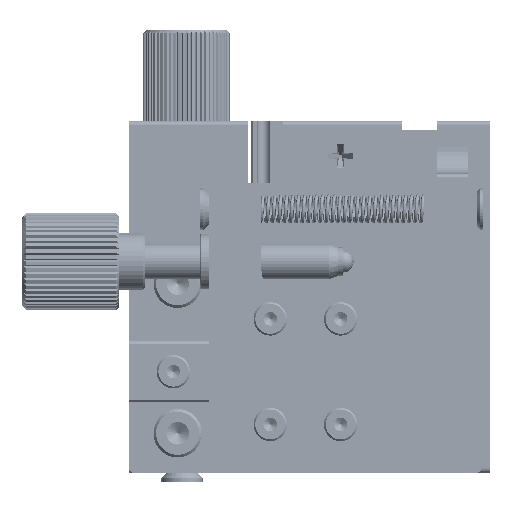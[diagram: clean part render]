
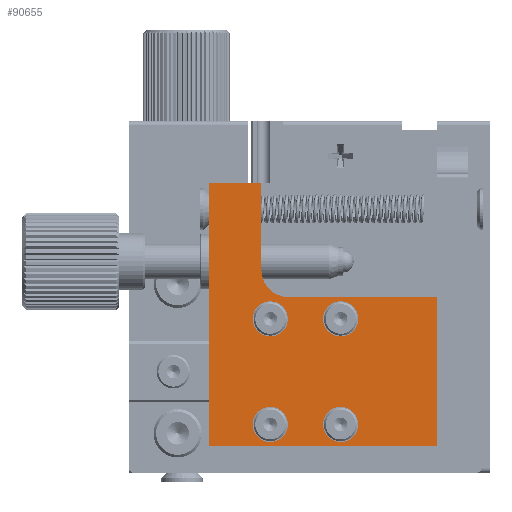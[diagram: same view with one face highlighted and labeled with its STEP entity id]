
A CAD part, left-side view. The second image highlights one B-rep face of the part: STEP entity #90655.
In plain terms, the highlighted planar face has unit normal (-1, 0, 0).
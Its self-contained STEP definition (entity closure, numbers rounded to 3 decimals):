
#479 = DIRECTION ( 'NONE',  ( 0., 0., -1. ) ) ;
#631 = VERTEX_POINT ( 'NONE', #17053 ) ;
#687 = LINE ( 'NONE', #15342, #21045 ) ;
#727 = VECTOR ( 'NONE', #61378, 1000. ) ;
#1184 = AXIS2_PLACEMENT_3D ( 'NONE', #71911, #57733, #479 ) ;
#1386 = EDGE_LOOP ( 'NONE', ( #27241, #33060 ) ) ;
#2384 = AXIS2_PLACEMENT_3D ( 'NONE', #83773, #6808, #56300 ) ;
#3590 = ORIENTED_EDGE ( 'NONE', *, *, #34235, .T. ) ;
#4212 = DIRECTION ( 'NONE',  ( 1., 0., 0. ) ) ;
#4780 = DIRECTION ( 'NONE',  ( 1., 0., 0. ) ) ;
#5245 = DIRECTION ( 'NONE',  ( 0., 0., -1. ) ) ;
#5265 = EDGE_CURVE ( 'NONE', #46439, #46692, #22214, .T. ) ;
#5508 = DIRECTION ( 'NONE',  ( 0., 0., -1. ) ) ;
#5729 = ORIENTED_EDGE ( 'NONE', *, *, #59796, .F. ) ;
#6321 = CARTESIAN_POINT ( 'NONE',  ( -173.34, -11.132, -1.265 ) ) ;
#6808 = DIRECTION ( 'NONE',  ( -1., 0., 0. ) ) ;
#7044 = EDGE_CURVE ( 'NONE', #72192, #24016, #75538, .T. ) ;
#7562 = AXIS2_PLACEMENT_3D ( 'NONE', #27410, #55341, #20510 ) ;
#7985 = DIRECTION ( 'NONE',  ( 0., -1., 0. ) ) ;
#9115 = EDGE_CURVE ( 'NONE', #84697, #72192, #85157, .T. ) ;
#9137 = VECTOR ( 'NONE', #50720, 1000. ) ;
#9188 = ORIENTED_EDGE ( 'NONE', *, *, #5265, .T. ) ;
#9486 = DIRECTION ( 'NONE',  ( 1., 0., 0. ) ) ;
#9624 = VERTEX_POINT ( 'NONE', #56679 ) ;
#10878 = CARTESIAN_POINT ( 'NONE',  ( -173.34, -19.632, -5.765 ) ) ;
#11327 = FACE_BOUND ( 'NONE', #70405, .T. ) ;
#11580 = CARTESIAN_POINT ( 'NONE',  ( -173.34, -10.132, 14.235 ) ) ;
#12117 = LINE ( 'NONE', #74882, #32809 ) ;
#14315 = EDGE_CURVE ( 'NONE', #23785, #23959, #12117, .T. ) ;
#15342 = CARTESIAN_POINT ( 'NONE',  ( -173.34, -19.632, -5.765 ) ) ;
#15978 = DIRECTION ( 'NONE',  ( 0., 0., -1. ) ) ;
#16381 = FACE_BOUND ( 'NONE', #61539, .T. ) ;
#16445 = CARTESIAN_POINT ( 'NONE',  ( -173.34, -10.132, -5.765 ) ) ;
#17053 = CARTESIAN_POINT ( 'NONE',  ( -173.34, -4.132, -5.765 ) ) ;
#17985 = CARTESIAN_POINT ( 'NONE',  ( -173.34, -11.132, 8.735 ) ) ;
#18561 = CARTESIAN_POINT ( 'NONE',  ( -173.34, -19.132, -3.265 ) ) ;
#19851 = DIRECTION ( 'NONE',  ( 0., 0., -1. ) ) ;
#20510 = DIRECTION ( 'NONE',  ( 0., 0., -1. ) ) ;
#20603 = DIRECTION ( 'NONE',  ( 1., 0., 0. ) ) ;
#20726 = AXIS2_PLACEMENT_3D ( 'NONE', #72262, #9486, #65411 ) ;
#21045 = VECTOR ( 'NONE', #7985, 1000. ) ;
#21177 = EDGE_CURVE ( 'NONE', #85221, #9624, #60182, .T. ) ;
#22214 = CIRCLE ( 'NONE', #20726, 2. ) ;
#22225 = ORIENTED_EDGE ( 'NONE', *, *, #7044, .F. ) ;
#22240 = CIRCLE ( 'NONE', #7562, 2. ) ;
#23167 = AXIS2_PLACEMENT_3D ( 'NONE', #18561, #4780, #5245 ) ;
#23711 = PLANE ( 'NONE',  #70059 ) ;
#23739 = CARTESIAN_POINT ( 'NONE',  ( -173.34, -19.132, 10.735 ) ) ;
#23785 = VERTEX_POINT ( 'NONE', #38029 ) ;
#23959 = VERTEX_POINT ( 'NONE', #27772 ) ;
#24016 = VERTEX_POINT ( 'NONE', #56602 ) ;
#24052 = VECTOR ( 'NONE', #83250, 1000. ) ;
#25850 = CIRCLE ( 'NONE', #88736, 2. ) ;
#27241 = ORIENTED_EDGE ( 'NONE', *, *, #61768, .T. ) ;
#27410 = CARTESIAN_POINT ( 'NONE',  ( -173.34, -19.132, 8.735 ) ) ;
#27772 = CARTESIAN_POINT ( 'NONE',  ( -173.34, -30.132, 11.235 ) ) ;
#28640 = ORIENTED_EDGE ( 'NONE', *, *, #57980, .T. ) ;
#30423 = VERTEX_POINT ( 'NONE', #59421 ) ;
#30511 = VERTEX_POINT ( 'NONE', #37886 ) ;
#31062 = DIRECTION ( 'NONE',  ( 1., 0., 0. ) ) ;
#31639 = LINE ( 'NONE', #88857, #727 ) ;
#32531 = CARTESIAN_POINT ( 'NONE',  ( -173.34, -11.132, 8.735 ) ) ;
#32809 = VECTOR ( 'NONE', #40100, 1000. ) ;
#33060 = ORIENTED_EDGE ( 'NONE', *, *, #71028, .T. ) ;
#34235 = EDGE_CURVE ( 'NONE', #631, #23785, #687, .T. ) ;
#35975 = CIRCLE ( 'NONE', #85688, 2. ) ;
#36117 = CARTESIAN_POINT ( 'NONE',  ( -173.34, -19.132, 6.735 ) ) ;
#36297 = EDGE_CURVE ( 'NONE', #9624, #85221, #35975, .T. ) ;
#37460 = LINE ( 'NONE', #58056, #9137 ) ;
#37886 = CARTESIAN_POINT ( 'NONE',  ( -173.34, -19.132, -1.265 ) ) ;
#38029 = CARTESIAN_POINT ( 'NONE',  ( -173.34, -30.132, -5.765 ) ) ;
#39847 = DIRECTION ( 'NONE',  ( 0., 0., -1. ) ) ;
#40100 = DIRECTION ( 'NONE',  ( 0., 0., 1. ) ) ;
#42948 = CARTESIAN_POINT ( 'NONE',  ( -173.34, -11.132, -5.265 ) ) ;
#43255 = EDGE_LOOP ( 'NONE', ( #88372, #5729, #3590, #47081, #60875, #22225, #46934 ) ) ;
#45408 = ORIENTED_EDGE ( 'NONE', *, *, #66250, .T. ) ;
#46439 = VERTEX_POINT ( 'NONE', #6321 ) ;
#46692 = VERTEX_POINT ( 'NONE', #42948 ) ;
#46934 = ORIENTED_EDGE ( 'NONE', *, *, #9115, .F. ) ;
#47027 = AXIS2_PLACEMENT_3D ( 'NONE', #32531, #74621, #39847 ) ;
#47081 = ORIENTED_EDGE ( 'NONE', *, *, #14315, .T. ) ;
#47650 = EDGE_CURVE ( 'NONE', #24016, #23959, #37460, .T. ) ;
#48697 = CIRCLE ( 'NONE', #72082, 2. ) ;
#49432 = DIRECTION ( 'NONE',  ( 1., 0., 0. ) ) ;
#49541 = CIRCLE ( 'NONE', #23167, 2. ) ;
#50621 = EDGE_CURVE ( 'NONE', #30423, #84697, #31639, .T. ) ;
#50720 = DIRECTION ( 'NONE',  ( 0., -1., 0. ) ) ;
#51834 = ORIENTED_EDGE ( 'NONE', *, *, #90004, .T. ) ;
#52490 = VERTEX_POINT ( 'NONE', #36117 ) ;
#55341 = DIRECTION ( 'NONE',  ( 1., 0., 0. ) ) ;
#55757 = LINE ( 'NONE', #90130, #24052 ) ;
#56300 = DIRECTION ( 'NONE',  ( 0., 1., 0. ) ) ;
#56602 = CARTESIAN_POINT ( 'NONE',  ( -173.34, -13.132, 11.235 ) ) ;
#56679 = CARTESIAN_POINT ( 'NONE',  ( -173.34, -11.132, 6.735 ) ) ;
#56789 = CIRCLE ( 'NONE', #1184, 2. ) ;
#57191 = DIRECTION ( 'NONE',  ( 0., 0., -1. ) ) ;
#57733 = DIRECTION ( 'NONE',  ( 1., 0., 0. ) ) ;
#57980 = EDGE_CURVE ( 'NONE', #74201, #30511, #48697, .T. ) ;
#58056 = CARTESIAN_POINT ( 'NONE',  ( -173.34, -19.632, 11.235 ) ) ;
#58106 = EDGE_LOOP ( 'NONE', ( #45408, #9188 ) ) ;
#58139 = VERTEX_POINT ( 'NONE', #23739 ) ;
#59421 = CARTESIAN_POINT ( 'NONE',  ( -173.34, -4.132, 24.235 ) ) ;
#59796 = EDGE_CURVE ( 'NONE', #631, #30423, #55757, .T. ) ;
#60182 = CIRCLE ( 'NONE', #47027, 2. ) ;
#60875 = ORIENTED_EDGE ( 'NONE', *, *, #47650, .F. ) ;
#61378 = DIRECTION ( 'NONE',  ( 0., -1., 0. ) ) ;
#61539 = EDGE_LOOP ( 'NONE', ( #77215, #79364 ) ) ;
#61768 = EDGE_CURVE ( 'NONE', #52490, #58139, #25850, .T. ) ;
#65411 = DIRECTION ( 'NONE',  ( 0., 0., -1. ) ) ;
#65444 = CARTESIAN_POINT ( 'NONE',  ( -173.34, -19.132, -3.265 ) ) ;
#65615 = CARTESIAN_POINT ( 'NONE',  ( -173.34, -11.132, 10.735 ) ) ;
#66250 = EDGE_CURVE ( 'NONE', #46692, #46439, #56789, .T. ) ;
#70059 = AXIS2_PLACEMENT_3D ( 'NONE', #10878, #31062, #73634 ) ;
#70405 = EDGE_LOOP ( 'NONE', ( #28640, #51834 ) ) ;
#71028 = EDGE_CURVE ( 'NONE', #58139, #52490, #22240, .T. ) ;
#71336 = CARTESIAN_POINT ( 'NONE',  ( -173.34, -10.132, 24.235 ) ) ;
#71911 = CARTESIAN_POINT ( 'NONE',  ( -173.34, -11.132, -3.265 ) ) ;
#72082 = AXIS2_PLACEMENT_3D ( 'NONE', #65444, #49432, #57191 ) ;
#72192 = VERTEX_POINT ( 'NONE', #11580 ) ;
#72262 = CARTESIAN_POINT ( 'NONE',  ( -173.34, -11.132, -3.265 ) ) ;
#72721 = FACE_OUTER_BOUND ( 'NONE', #43255, .T. ) ;
#73634 = DIRECTION ( 'NONE',  ( 0., 1., 0. ) ) ;
#74201 = VERTEX_POINT ( 'NONE', #75155 ) ;
#74621 = DIRECTION ( 'NONE',  ( 1., 0., 0. ) ) ;
#74882 = CARTESIAN_POINT ( 'NONE',  ( -173.34, -30.132, -5.765 ) ) ;
#75155 = CARTESIAN_POINT ( 'NONE',  ( -173.34, -19.132, -5.265 ) ) ;
#75538 = CIRCLE ( 'NONE', #2384, 3. ) ;
#77215 = ORIENTED_EDGE ( 'NONE', *, *, #36297, .T. ) ;
#77778 = FACE_BOUND ( 'NONE', #58106, .T. ) ;
#79364 = ORIENTED_EDGE ( 'NONE', *, *, #21177, .T. ) ;
#83250 = DIRECTION ( 'NONE',  ( 0., 0., 1. ) ) ;
#83773 = CARTESIAN_POINT ( 'NONE',  ( -173.34, -13.132, 14.235 ) ) ;
#84338 = VECTOR ( 'NONE', #15978, 1000. ) ;
#84697 = VERTEX_POINT ( 'NONE', #71336 ) ;
#85157 = LINE ( 'NONE', #16445, #84338 ) ;
#85221 = VERTEX_POINT ( 'NONE', #65615 ) ;
#85688 = AXIS2_PLACEMENT_3D ( 'NONE', #17985, #4212, #19851 ) ;
#86443 = FACE_BOUND ( 'NONE', #1386, .T. ) ;
#87544 = CARTESIAN_POINT ( 'NONE',  ( -173.34, -19.132, 8.735 ) ) ;
#88372 = ORIENTED_EDGE ( 'NONE', *, *, #50621, .F. ) ;
#88736 = AXIS2_PLACEMENT_3D ( 'NONE', #87544, #20603, #5508 ) ;
#88857 = CARTESIAN_POINT ( 'NONE',  ( -173.34, -19.632, 24.235 ) ) ;
#90004 = EDGE_CURVE ( 'NONE', #30511, #74201, #49541, .T. ) ;
#90130 = CARTESIAN_POINT ( 'NONE',  ( -173.34, -4.132, -5.765 ) ) ;
#90655 = ADVANCED_FACE ( 'NONE', ( #77778, #16381, #86443, #11327, #72721 ), #23711, .F. ) ;
